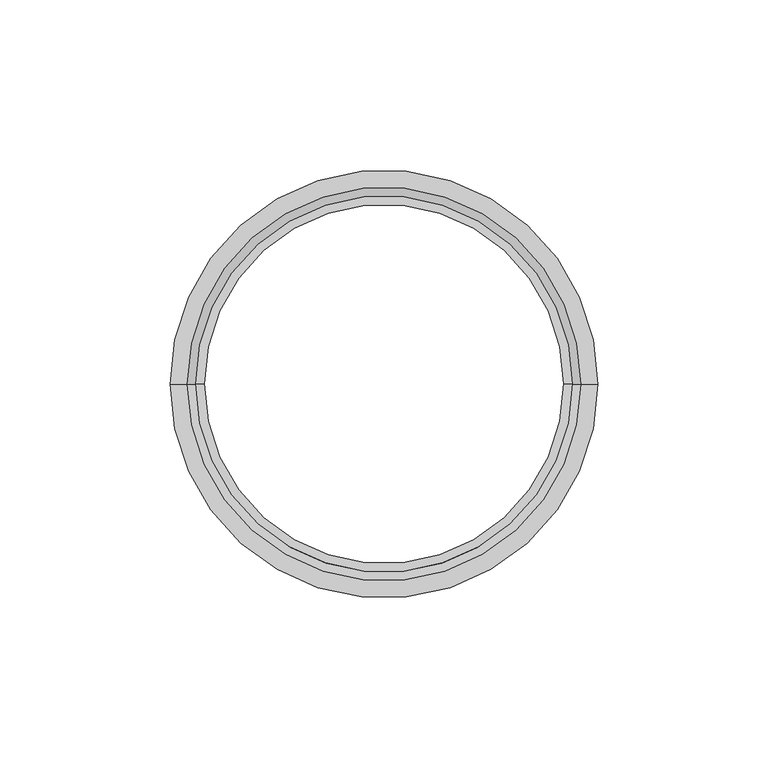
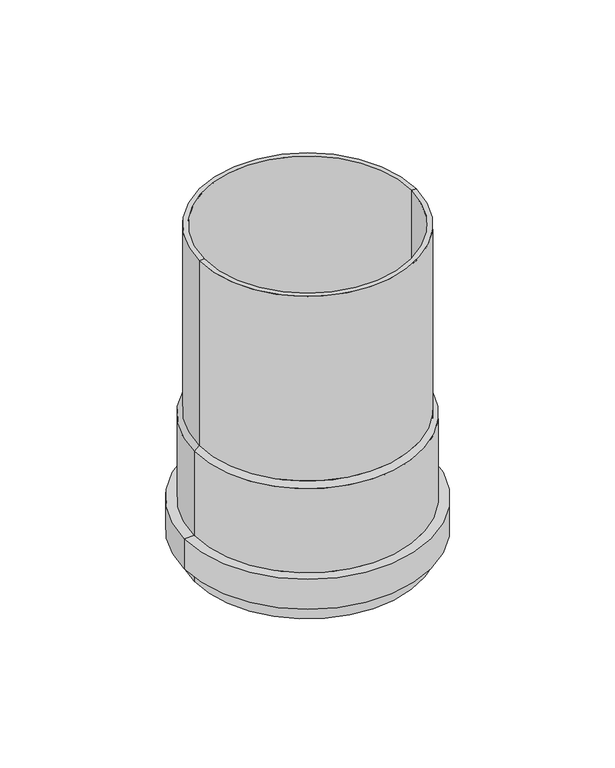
"""IFC4 building model written with IfcOpenShell, lengths in millimetres: pipe fitting geometry, AmancoWavin_ConexõesdeTubos_SaneamentoEsgotoNãoUsarProlongamento : Novafort."""

from ifc_helpers import new_model, si_unit, frame, origin, place, context, project, spatial, polyline, circle_curve, source, transform, mapped, element, save
from ifc_brep_helpers import plane_surface, cylinder_surface, revolved_surface, advanced_brep


def pipe_fitting_d91df425(model_context):
    return source(origin(), model_context, "Body", "AdvancedBrep", [
        advanced_brep(
        [(55.325, 0.0, 72.5), (-55.325, 0.0, 72.5), (-55.325, 0.0, 172.059), (55.325, 0.0, 172.059), (52.825, 0.0, 72.5), (-52.825, 0.0, 72.5), (52.825, 0.0, 172.059), (-52.825, 0.0, 172.059)],
        [
            (0, 1, circle_curve(frame((0.0, 0.0, 72.5), z_axis=(0.0, 0.0, 1.0), x_axis=(-1.0, 0.0, 0.0)), 55.325)),
            (1, 2),
            (2, 3, circle_curve(frame((0.0, 0.0, 172.059), z_axis=(0.0, 0.0, -1.0), x_axis=(-1.0, 0.0, 0.0)), 55.325)),
            (3, 0),
            (1, 0, circle_curve(frame((0.0, 0.0, 72.5), z_axis=(0.0, 0.0, 1.0), x_axis=(-1.0, 0.0, 0.0)), 55.325)),
            (3, 2, circle_curve(frame((0.0, 0.0, 172.059), z_axis=(0.0, 0.0, -1.0), x_axis=(-1.0, 0.0, 0.0)), 55.325)),
            (4, 5, circle_curve(frame((0.0, 0.0, 72.5), z_axis=(0.0, 0.0, 1.0), x_axis=(-1.0, 0.0, 0.0)), 52.825)),
            (5, 1),
            (0, 4),
            (5, 4, circle_curve(frame((0.0, 0.0, 72.5), z_axis=(0.0, 0.0, 1.0), x_axis=(-1.0, 0.0, 0.0)), 52.825)),
            (6, 7, circle_curve(frame((0.0, 0.0, 172.059), z_axis=(0.0, 0.0, 1.0), x_axis=(-1.0, 0.0, 0.0)), 52.825)),
            (7, 5),
            (4, 6),
            (7, 6, circle_curve(frame((0.0, 0.0, 172.059), z_axis=(0.0, 0.0, 1.0), x_axis=(-1.0, 0.0, 0.0)), 52.825)),
            (2, 7),
            (6, 3),
        ],
        [
            cylinder_surface(frame((0.0, 0.0, 1654.6740031), z_axis=(0.0, 0.0, -1.0), x_axis=(-1.0, 0.0, 0.0)), 55.325),
            plane_surface(frame((0.0, 0.0, 72.5), z_axis=(0.0, 0.0, -1.0), x_axis=(-1.0, 0.0, 0.0))),
            revolved_surface(polyline([(-52.825, 0.0, 72.5), (-52.825, 0.0, 172.05899999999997)]), (0.0, 0.0, 1654.6740031), (0.0, 0.0, -1.0)),
            plane_surface(frame((0.0, 0.0, 172.059), z_axis=(0.0, 0.0, 1.0), x_axis=(-1.0, 0.0, 0.0))),
        ],
        [
            (0, [[1, 2, 3, 4]]),
            (0, [[5, -4, 6, -2]]),
            (1, [[7, 8, -1, 9]]),
            (1, [[10, -9, -5, -8]]),
            (2, [[11, 12, -7, 13]]),
            (2, [[14, -13, -10, -12]]),
            (3, [[-3, 15, -11, 16]]),
            (3, [[-6, -16, -14, -15]]),
        ],
    ),
        advanced_brep(
        [(57.825, 0.0, 0.0), (-57.825, 0.0, 0.0), (-57.825, 0.0, 8.6), (57.825, 0.0, 8.6), (55.325, 0.0, 0.0), (-55.325, 0.0, 0.0), (55.325, 0.0, 11.1), (-55.325, 0.0, 11.1), (60.4, 0.0, 11.1), (-60.4, 0.0, 11.1), (60.4, 0.0, 22.3), (-60.4, 0.0, 22.3), (55.325, 0.0, 22.3), (-55.325, 0.0, 22.3), (55.325, 0.0, 72.5), (-55.325, 0.0, 72.5), (57.825, 0.0, 24.8), (-57.825, 0.0, 24.8), (-57.825, 0.0, 70.0), (57.825, 0.0, 70.0), (62.9, 0.0, 24.8), (-62.9, 0.0, 24.8), (62.9, 0.0, 8.6), (-62.9, 0.0, 8.6)],
        [
            (0, 1, circle_curve(frame((0.0, 0.0, 0.0), z_axis=(0.0, 0.0, 1.0), x_axis=(-1.0, 0.0, 0.0)), 57.825)),
            (1, 2),
            (2, 3, circle_curve(frame((0.0, 0.0, 8.6), z_axis=(0.0, 0.0, -1.0), x_axis=(-1.0, 0.0, 0.0)), 57.825)),
            (3, 0),
            (1, 0, circle_curve(frame((0.0, 0.0, 0.0), z_axis=(0.0, 0.0, 1.0), x_axis=(-1.0, 0.0, 0.0)), 57.825)),
            (3, 2, circle_curve(frame((0.0, 0.0, 8.6), z_axis=(0.0, 0.0, -1.0), x_axis=(-1.0, 0.0, 0.0)), 57.825)),
            (4, 5, circle_curve(frame((0.0, 0.0, 0.0), z_axis=(0.0, 0.0, 1.0), x_axis=(-1.0, 0.0, 0.0)), 55.325)),
            (5, 1),
            (0, 4),
            (5, 4, circle_curve(frame((0.0, 0.0, 0.0), z_axis=(0.0, 0.0, 1.0), x_axis=(-1.0, 0.0, 0.0)), 55.325)),
            (6, 7, circle_curve(frame((0.0, 0.0, 11.1), z_axis=(0.0, 0.0, 1.0), x_axis=(-1.0, 0.0, 0.0)), 55.325)),
            (7, 5),
            (4, 6),
            (7, 6, circle_curve(frame((0.0, 0.0, 11.1), z_axis=(0.0, 0.0, 1.0), x_axis=(-1.0, 0.0, 0.0)), 55.325)),
            (8, 9, circle_curve(frame((0.0, 0.0, 11.1), z_axis=(0.0, 0.0, 1.0), x_axis=(-1.0, 0.0, 0.0)), 60.4)),
            (9, 7),
            (6, 8),
            (9, 8, circle_curve(frame((0.0, 0.0, 11.1), z_axis=(0.0, 0.0, 1.0), x_axis=(-1.0, 0.0, 0.0)), 60.4)),
            (10, 11, circle_curve(frame((0.0, 0.0, 22.3), z_axis=(0.0, 0.0, 1.0), x_axis=(-1.0, 0.0, 0.0)), 60.4)),
            (11, 9),
            (8, 10),
            (11, 10, circle_curve(frame((0.0, 0.0, 22.3), z_axis=(0.0, 0.0, 1.0), x_axis=(-1.0, 0.0, 0.0)), 60.4)),
            (12, 13, circle_curve(frame((0.0, 0.0, 22.3), z_axis=(0.0, 0.0, 1.0), x_axis=(-1.0, 0.0, 0.0)), 55.325)),
            (13, 11),
            (10, 12),
            (13, 12, circle_curve(frame((0.0, 0.0, 22.3), z_axis=(0.0, 0.0, 1.0), x_axis=(-1.0, 0.0, 0.0)), 55.325)),
            (14, 15, circle_curve(frame((0.0, 0.0, 72.5), z_axis=(0.0, 0.0, 1.0), x_axis=(-1.0, 0.0, 0.0)), 55.325)),
            (15, 13),
            (12, 14),
            (15, 14, circle_curve(frame((0.0, 0.0, 72.5), z_axis=(0.0, 0.0, 1.0), x_axis=(-1.0, 0.0, 0.0)), 55.325)),
            (16, 17, circle_curve(frame((0.0, 0.0, 24.8), z_axis=(0.0, 0.0, 1.0), x_axis=(-1.0, 0.0, 0.0)), 57.825)),
            (17, 18),
            (18, 19, circle_curve(frame((0.0, 0.0, 70.0), z_axis=(0.0, 0.0, -1.0), x_axis=(-1.0, 0.0, 0.0)), 57.825)),
            (19, 16),
            (17, 16, circle_curve(frame((0.0, 0.0, 24.8), z_axis=(0.0, 0.0, 1.0), x_axis=(-1.0, 0.0, 0.0)), 57.825)),
            (19, 18, circle_curve(frame((0.0, 0.0, 70.0), z_axis=(0.0, 0.0, -1.0), x_axis=(-1.0, 0.0, 0.0)), 57.825)),
            (20, 21, circle_curve(frame((0.0, 0.0, 24.8), z_axis=(0.0, 0.0, 1.0), x_axis=(-1.0, 0.0, 0.0)), 62.9)),
            (21, 17),
            (16, 20),
            (21, 20, circle_curve(frame((0.0, 0.0, 24.8), z_axis=(0.0, 0.0, 1.0), x_axis=(-1.0, 0.0, 0.0)), 62.9)),
            (22, 23, circle_curve(frame((0.0, 0.0, 8.6), z_axis=(0.0, 0.0, 1.0), x_axis=(-1.0, 0.0, 0.0)), 62.9)),
            (23, 21),
            (20, 22),
            (23, 22, circle_curve(frame((0.0, 0.0, 8.6), z_axis=(0.0, 0.0, 1.0), x_axis=(-1.0, 0.0, 0.0)), 62.9)),
            (2, 23),
            (22, 3),
            (18, 15),
            (14, 19),
        ],
        [
            cylinder_surface(frame((0.0, 0.0, 2264.3137864), z_axis=(0.0, 0.0, -1.0), x_axis=(-1.0, 0.0, 0.0)), 57.825),
            plane_surface(frame((0.0, 0.0, 0.0), z_axis=(0.0, 0.0, -1.0), x_axis=(-1.0, 0.0, 0.0))),
            revolved_surface(polyline([(-55.325, 0.0, 0.0), (-55.325, 0.0, 11.099999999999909)]), (0.0, 0.0, 2264.3137864), (0.0, 0.0, -1.0)),
            plane_surface(frame((0.0, 0.0, 11.1), z_axis=(0.0, 0.0, 1.0), x_axis=(-1.0, 0.0, 0.0))),
            revolved_surface(polyline([(-60.4, 0.0, 11.099999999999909), (-60.4, 0.0, 22.300000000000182)]), (0.0, 0.0, 2264.3137864), (0.0, 0.0, -1.0)),
            plane_surface(frame((0.0, 0.0, 22.3), z_axis=(0.0, 0.0, -1.0), x_axis=(-1.0, 0.0, 0.0))),
            revolved_surface(polyline([(-55.325, 0.0, 22.300000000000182), (-55.325, 0.0, 72.5)]), (0.0, 0.0, 2264.3137864), (0.0, 0.0, -1.0)),
            plane_surface(frame((0.0, 0.0, 24.8), z_axis=(0.0, 0.0, 1.0), x_axis=(-1.0, 0.0, 0.0))),
            cylinder_surface(frame((0.0, 0.0, 2264.3137864), z_axis=(0.0, 0.0, -1.0), x_axis=(-1.0, 0.0, 0.0)), 62.9),
            plane_surface(frame((0.0, 0.0, 8.6), z_axis=(0.0, 0.0, -1.0), x_axis=(-1.0, 0.0, 0.0))),
            revolved_surface(polyline([(-55.325, 0.0, 72.5), (-57.825, 0.0, 70.0)]), (0.0, 0.0, 2264.3137864), (0.0, 0.0, -1.0)),
        ],
        [
            (0, [[1, 2, 3, 4]]),
            (0, [[5, -4, 6, -2]]),
            (1, [[7, 8, -1, 9]]),
            (1, [[10, -9, -5, -8]]),
            (2, [[11, 12, -7, 13]]),
            (2, [[14, -13, -10, -12]]),
            (3, [[15, 16, -11, 17]]),
            (3, [[18, -17, -14, -16]]),
            (4, [[19, 20, -15, 21]]),
            (4, [[22, -21, -18, -20]]),
            (5, [[23, 24, -19, 25]]),
            (5, [[26, -25, -22, -24]]),
            (6, [[27, 28, -23, 29]]),
            (6, [[30, -29, -26, -28]]),
            (0, [[31, 32, 33, 34]]),
            (0, [[35, -34, 36, -32]]),
            (7, [[37, 38, -31, 39]]),
            (7, [[40, -39, -35, -38]]),
            (8, [[41, 42, -37, 43]]),
            (8, [[44, -43, -40, -42]]),
            (9, [[-3, 45, -41, 46]]),
            (9, [[-6, -46, -44, -45]]),
            (10, [[-33, 47, -27, 48]]),
            (10, [[-36, -48, -30, -47]]),
        ],
    ),
    ])


if __name__ == "__main__":
    model = new_model("IFC4")
    model_context = context("Model", 3, world=origin())
    ifc_project = project(units=[si_unit("LENGTHUNIT", "METRE", prefix="MILLI")], contexts=[model_context])
    site = spatial("IfcSite", under=ifc_project)
    building = spatial("IfcBuilding", under=site)
    placement = place(None, origin())
    pipe_fitting_shape = pipe_fitting_d91df425(model_context)
    element("IfcPipeFitting", 1, ObjectType="AmancoWavin_ConexõesdeTubos_SaneamentoEsgotoNãoUsarProlongamento : Novafort", at=placement, inside=building, context=model_context, shape_type="MappedRepresentation", body=[
        mapped(pipe_fitting_shape, transform((0.0, 0.0, 0.0), x_axis=(1.0, 0.0, 0.0), y_axis=(0.0, 1.0, 0.0), z_axis=(0.0, 0.0, 1.0))),
    ])
    save(model, "model.ifc")
